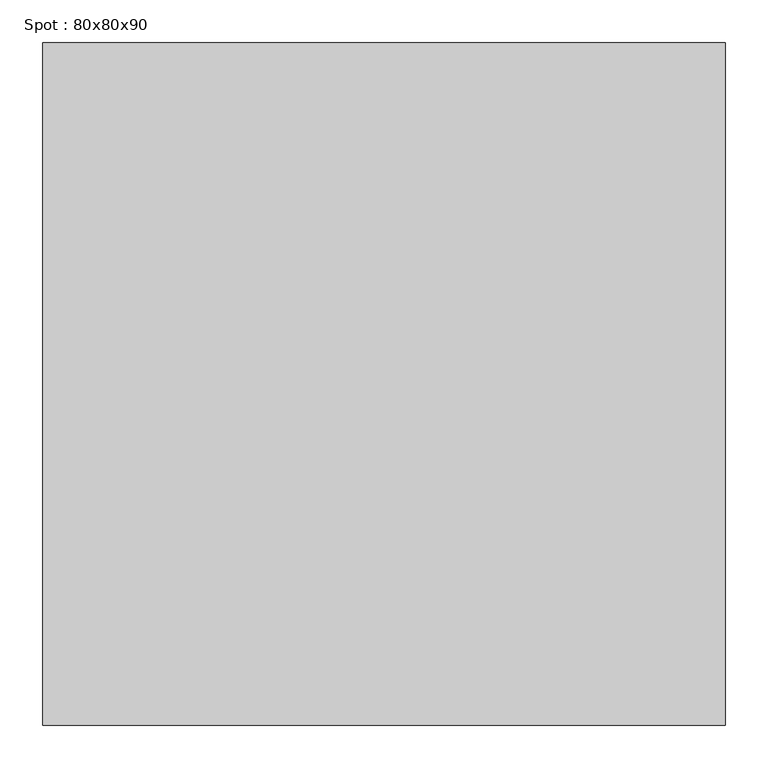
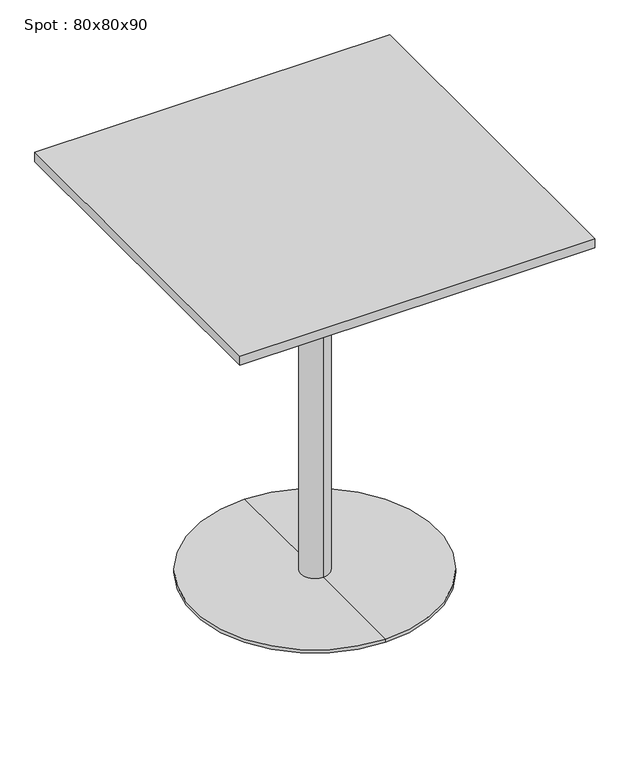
"""IFC4 building model written with IfcOpenShell, lengths in millimetres: furniture geometry, Spot : 80x80x90."""

from ifc_helpers import new_model, si_unit, frame, origin, place, context, project, spatial, polyline, circle_curve, outline, extrude, source, transform, mapped, element, save
from ifc_brep_helpers import plane_surface, cylinder_surface, revolved_surface, advanced_brep


def spot_80x80x90_f4485f4f(model_context):
    return source(origin(), model_context, "Body", "SolidModel", [
        extrude(outline(polyline([(400.0, 400.0), (400.0, -400.0), (-400.0, -400.0), (-400.0, 400.0), (400.0, 400.0)])), frame((0.0, 0.0, 878.0), z_axis=(0.0, 0.0, 1.0), x_axis=(1.0, 0.0, 0.0)), (0.0, 0.0, 1.0), 22.0),
        advanced_brep(
        [(0.0, 32.0, 10.0), (0.0, -32.0, 10.0), (0.0, -32.0, 847.406916), (0.0, 32.0, 847.406916), (0.0, 275.0, 10.0), (0.0, -275.0, 10.0), (0.0, 275.0, 2.0), (0.0, -275.0, 2.0), (0.0, 0.0, 2.0), (0.0, 150.0, 878.0), (0.0, -150.0, 878.0), (0.0, 0.0, 878.0), (0.0, 150.0, 866.7213673), (0.0, -150.0, 866.7213673)],
        [
            (0, 1, circle_curve(frame((0.0, 0.0, 10.0), z_axis=(0.0, 0.0, 1.0), x_axis=(0.0, -1.0, 0.0)), 32.0)),
            (1, 2),
            (2, 3, circle_curve(frame((0.0, 0.0, 847.406916), z_axis=(0.0, 0.0, -1.0), x_axis=(0.0, -1.0, 0.0)), 32.0)),
            (3, 0),
            (1, 0, circle_curve(frame((0.0, 0.0, 10.0), z_axis=(0.0, 0.0, 1.0), x_axis=(0.0, -1.0, 0.0)), 32.0)),
            (3, 2, circle_curve(frame((0.0, 0.0, 847.406916), z_axis=(0.0, 0.0, -1.0), x_axis=(0.0, -1.0, 0.0)), 32.0)),
            (4, 5, circle_curve(frame((0.0, 0.0, 10.0), z_axis=(0.0, 0.0, 1.0), x_axis=(0.0, -1.0, 0.0)), 275.0)),
            (5, 1),
            (0, 4),
            (5, 4, circle_curve(frame((0.0, 0.0, 10.0), z_axis=(0.0, 0.0, 1.0), x_axis=(0.0, -1.0, 0.0)), 275.0)),
            (6, 7, circle_curve(frame((0.0, 0.0, 2.0), z_axis=(0.0, 0.0, 1.0), x_axis=(0.0, -1.0, 0.0)), 275.0)),
            (7, 5),
            (4, 6),
            (7, 6, circle_curve(frame((0.0, 0.0, 2.0), z_axis=(0.0, 0.0, 1.0), x_axis=(0.0, -1.0, 0.0)), 275.0)),
            (8, 7),
            (6, 8),
            (9, 10, circle_curve(frame((0.0, 0.0, 878.0), z_axis=(0.0, 0.0, 1.0), x_axis=(0.0, -1.0, 0.0)), 150.0)),
            (10, 11),
            (11, 9),
            (10, 9, circle_curve(frame((0.0, 0.0, 878.0), z_axis=(0.0, 0.0, 1.0), x_axis=(0.0, -1.0, 0.0)), 150.0)),
            (12, 13, circle_curve(frame((0.0, 0.0, 866.7213673), z_axis=(0.0, 0.0, 1.0), x_axis=(0.0, -1.0, 0.0)), 150.0)),
            (13, 10),
            (9, 12),
            (13, 12, circle_curve(frame((0.0, 0.0, 866.7213673), z_axis=(0.0, 0.0, 1.0), x_axis=(0.0, -1.0, 0.0)), 150.0)),
            (2, 13),
            (12, 3),
        ],
        [
            cylinder_surface(frame((0.0, 0.0, 1240.0), z_axis=(0.0, 0.0, -1.0), x_axis=(0.0, -1.0, 0.0)), 32.0),
            plane_surface(frame((0.0, 0.0, 10.0), z_axis=(0.0, 0.0, 1.0), x_axis=(0.0, -1.0, 0.0))),
            cylinder_surface(frame((0.0, 0.0, 1240.0), z_axis=(0.0, 0.0, -1.0), x_axis=(0.0, -1.0, 0.0)), 275.0),
            plane_surface(frame((0.0, 0.0, 2.0), z_axis=(0.0, 0.0, -1.0), x_axis=(0.0, -1.0, 0.0))),
            plane_surface(frame((0.0, 0.0, 878.0), z_axis=(0.0, 0.0, 1.0), x_axis=(0.0, -1.0, 0.0))),
            cylinder_surface(frame((0.0, 0.0, 1240.0), z_axis=(0.0, 0.0, -1.0), x_axis=(0.0, -1.0, 0.0)), 150.0),
            revolved_surface(polyline([(0.0, -150.0, 866.7213673), (0.0, -32.0, 847.406916)]), (0.0, 0.0, 1240.0), (0.0, 0.0, -1.0)),
        ],
        [
            (0, [[1, 2, 3, 4]]),
            (0, [[5, -4, 6, -2]]),
            (1, [[7, 8, -1, 9]]),
            (1, [[10, -9, -5, -8]]),
            (2, [[11, 12, -7, 13]]),
            (2, [[14, -13, -10, -12]]),
            (3, [[15, -11, 16]]),
            (3, [[-16, -14, -15]]),
            (4, [[17, 18, 19]]),
            (4, [[20, -19, -18]]),
            (5, [[21, 22, -17, 23]]),
            (5, [[24, -23, -20, -22]]),
            (6, [[-3, 25, -21, 26]]),
            (6, [[-6, -26, -24, -25]]),
        ],
    ),
    ])


if __name__ == "__main__":
    model = new_model("IFC4")
    model_context = context("Model", 3, world=origin())
    ifc_project = project(units=[si_unit("LENGTHUNIT", "METRE", prefix="MILLI")], contexts=[model_context])
    site = spatial("IfcSite", under=ifc_project)
    building = spatial("IfcBuilding", under=site)
    placement = place(None, origin())
    spot_80x80x90_shape = spot_80x80x90_f4485f4f(model_context)
    element("IfcFurniture", 1, ObjectType="Spot : 80x80x90", at=placement, inside=building, context=model_context, shape_type="MappedRepresentation", body=[
        mapped(spot_80x80x90_shape, transform((0.0, 0.0, 0.0), x_axis=(1.0, 0.0, 0.0), y_axis=(0.0, 1.0, 0.0), z_axis=(0.0, 0.0, 1.0))),
    ])
    save(model, "model.ifc")
